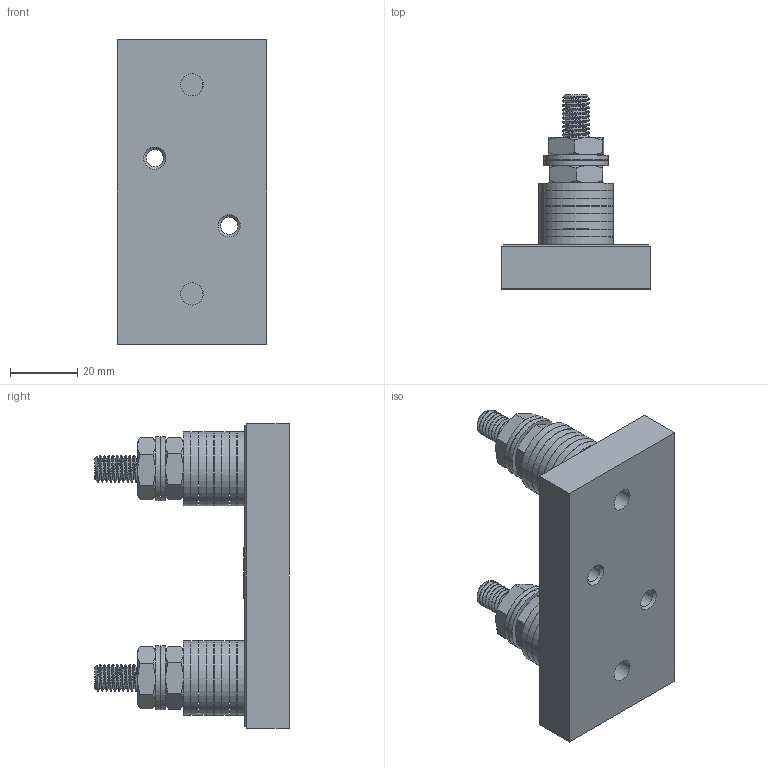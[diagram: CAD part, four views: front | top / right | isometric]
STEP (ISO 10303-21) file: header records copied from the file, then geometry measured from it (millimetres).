
FILE_DESCRIPTION(/* description */ (''),/* implementation_level */ '2;1');
FILE_NAME(/* name */ 'C:\Users\Hani\Desktop\work\BLC-209\BLC-209.stp',/* time_stamp */ '2021-07-09T17:59:27-07:00',/* author */ ('Hani'),/* organization */ (''),/* preprocessor_version */ 'ST-DEVELOPER v17',/* originating_system */ 'Autodesk Inventor 2019',/* authorisation */ '');
FILE_SCHEMA (('AUTOMOTIVE_DESIGN { 1 0 10303 214 3 1 1 }'));
Length unit declared in the file: inch
Products named in the file (6): BLC-209; BLC-209_1; resin washer; washer; M8 NUT; M8 Bolt
Assembly tree (27 placements, depth 2):
  BLC-209
    BLC-209_1
    resin washer  x16
    M8 NUT  x4
    washer  x4
    M8 Bolt  x2
Bounding box: 44.2 x 57.66 x 90.17 mm (x, y, z)
Volume: 72216.4 mm3; surface area: 35729.2 mm2
Topology: 27 solids, 27 shells, 620 faces, 1564 edges, 1024 vertices
Faces by surface type: cylinder 216, plane 205, bspline 129, cone 70
Full cylindrical faces by diameter (mm): 5.08 x2, 6.376 x76, 6.655 x2, 8 x74, 8.28 x4, 8.534 x16, 19.05 x4, 22.022 x16
Entity records: 18565 total; most frequent: CARTESIAN_POINT 11227, ORIENTED_EDGE 1716, DIRECTION 1051, EDGE_CURVE 858, VERTEX_POINT 566, LINE 419, VECTOR 419, EDGE_LOOP 354
